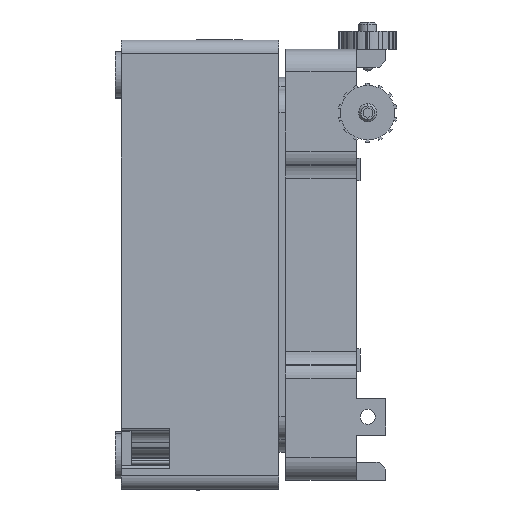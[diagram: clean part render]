
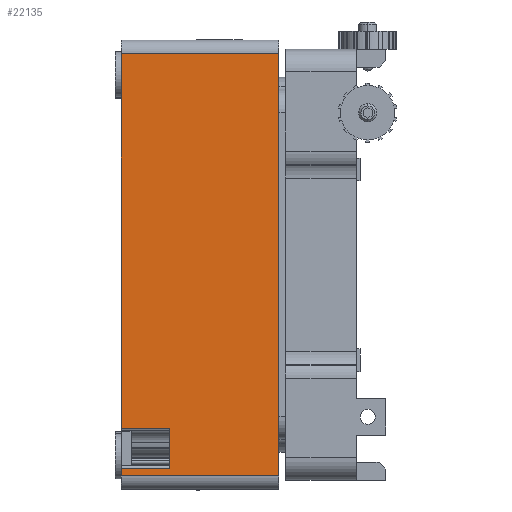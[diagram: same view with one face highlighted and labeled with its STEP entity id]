
A CAD part, left-side view. The second image highlights one B-rep face of the part: STEP entity #22135.
In plain terms, the highlighted planar face has unit normal (-1, 0, 0).
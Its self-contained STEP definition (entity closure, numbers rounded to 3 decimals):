
#538 = VERTEX_POINT ( 'NONE', #8801 ) ;
#1248 = EDGE_CURVE ( 'NONE', #46808, #26964, #15359, .T. ) ;
#2685 = EDGE_CURVE ( 'NONE', #25119, #26964, #42221, .T. ) ;
#4002 = ORIENTED_EDGE ( 'NONE', *, *, #1248, .T. ) ;
#4913 = CARTESIAN_POINT ( 'NONE',  ( -71., -34.7, -46.5 ) ) ;
#6540 = CARTESIAN_POINT ( 'NONE',  ( -71., 0., -36.071 ) ) ;
#7773 = VECTOR ( 'NONE', #14182, 1000. ) ;
#7884 = VECTOR ( 'NONE', #28069, 1000. ) ;
#8281 = LINE ( 'NONE', #32616, #21726 ) ;
#8399 = VECTOR ( 'NONE', #11824, 1000. ) ;
#8423 = VERTEX_POINT ( 'NONE', #13285 ) ;
#8801 = CARTESIAN_POINT ( 'NONE',  ( -71., 0., 46.5 ) ) ;
#9759 = VECTOR ( 'NONE', #29843, 1000. ) ;
#11055 = VECTOR ( 'NONE', #45674, 1000. ) ;
#11824 = DIRECTION ( 'NONE',  ( 0., 1., 0. ) ) ;
#13020 = LINE ( 'NONE', #21406, #46149 ) ;
#13285 = CARTESIAN_POINT ( 'NONE',  ( -71., -34.7, 46.5 ) ) ;
#14182 = DIRECTION ( 'NONE',  ( 0., 0., -1. ) ) ;
#14997 = EDGE_CURVE ( 'NONE', #8423, #45900, #27159, .T. ) ;
#15359 = LINE ( 'NONE', #35596, #25522 ) ;
#15644 = LINE ( 'NONE', #16167, #7884 ) ;
#16167 = CARTESIAN_POINT ( 'NONE',  ( -71., 0., -46.5 ) ) ;
#16818 = LINE ( 'NONE', #33247, #11055 ) ;
#17074 = ORIENTED_EDGE ( 'NONE', *, *, #14997, .F. ) ;
#17711 = ORIENTED_EDGE ( 'NONE', *, *, #36963, .F. ) ;
#17802 = VERTEX_POINT ( 'NONE', #42685 ) ;
#19911 = ORIENTED_EDGE ( 'NONE', *, *, #34762, .F. ) ;
#19956 = DIRECTION ( 'NONE',  ( 0., 1., 0. ) ) ;
#21406 = CARTESIAN_POINT ( 'NONE',  ( -71., -10.6, -36.571 ) ) ;
#21726 = VECTOR ( 'NONE', #45037, 1000. ) ;
#22135 = ADVANCED_FACE ( 'NONE', ( #39213 ), #43770, .F. ) ;
#23912 = ORIENTED_EDGE ( 'NONE', *, *, #29060, .T. ) ;
#24379 = DIRECTION ( 'NONE',  ( 0., 0., -1. ) ) ;
#24949 = ORIENTED_EDGE ( 'NONE', *, *, #34704, .T. ) ;
#25119 = VERTEX_POINT ( 'NONE', #50612 ) ;
#25522 = VECTOR ( 'NONE', #19956, 1000. ) ;
#26964 = VERTEX_POINT ( 'NONE', #51920 ) ;
#27159 = LINE ( 'NONE', #43064, #7773 ) ;
#28069 = DIRECTION ( 'NONE',  ( 0., 0., 1. ) ) ;
#28506 = EDGE_LOOP ( 'NONE', ( #19911, #23912, #17711, #4002, #41035, #24949, #17074, #31863 ) ) ;
#28761 = CARTESIAN_POINT ( 'NONE',  ( -71., 0., -46.5 ) ) ;
#28987 = DIRECTION ( 'NONE',  ( 0., 0., 1. ) ) ;
#29060 = EDGE_CURVE ( 'NONE', #35143, #17802, #16818, .T. ) ;
#29843 = DIRECTION ( 'NONE',  ( 0., 0., 1. ) ) ;
#31863 = ORIENTED_EDGE ( 'NONE', *, *, #42477, .T. ) ;
#32616 = CARTESIAN_POINT ( 'NONE',  ( -71., -2., -46.5 ) ) ;
#33247 = CARTESIAN_POINT ( 'NONE',  ( -71., -2., -36.071 ) ) ;
#34704 = EDGE_CURVE ( 'NONE', #25119, #45900, #8281, .T. ) ;
#34762 = EDGE_CURVE ( 'NONE', #35143, #538, #15644, .T. ) ;
#35143 = VERTEX_POINT ( 'NONE', #6540 ) ;
#35596 = CARTESIAN_POINT ( 'NONE',  ( -71., -2., -44.778 ) ) ;
#36963 = EDGE_CURVE ( 'NONE', #46808, #17802, #13020, .T. ) ;
#37004 = CARTESIAN_POINT ( 'NONE',  ( -71., -2., 49.5 ) ) ;
#39213 = FACE_OUTER_BOUND ( 'NONE', #28506, .T. ) ;
#39588 = CARTESIAN_POINT ( 'NONE',  ( -71., -10.6, -44.778 ) ) ;
#41035 = ORIENTED_EDGE ( 'NONE', *, *, #2685, .F. ) ;
#42221 = LINE ( 'NONE', #28761, #9759 ) ;
#42477 = EDGE_CURVE ( 'NONE', #8423, #538, #49136, .T. ) ;
#42685 = CARTESIAN_POINT ( 'NONE',  ( -71., -10.6, -36.071 ) ) ;
#43064 = CARTESIAN_POINT ( 'NONE',  ( -71., -34.7, 49.5 ) ) ;
#43770 = PLANE ( 'NONE',  #51460 ) ;
#45037 = DIRECTION ( 'NONE',  ( 0., -1., 0. ) ) ;
#45674 = DIRECTION ( 'NONE',  ( 0., -1., 0. ) ) ;
#45900 = VERTEX_POINT ( 'NONE', #4913 ) ;
#46149 = VECTOR ( 'NONE', #28987, 1000. ) ;
#46808 = VERTEX_POINT ( 'NONE', #39588 ) ;
#48858 = CARTESIAN_POINT ( 'NONE',  ( -71., -2., 46.5 ) ) ;
#49136 = LINE ( 'NONE', #48858, #8399 ) ;
#50612 = CARTESIAN_POINT ( 'NONE',  ( -71., 0., -46.5 ) ) ;
#51460 = AXIS2_PLACEMENT_3D ( 'NONE', #37004, #52972, #24379 ) ;
#51920 = CARTESIAN_POINT ( 'NONE',  ( -71., 0., -44.778 ) ) ;
#52972 = DIRECTION ( 'NONE',  ( 1., 0., 0. ) ) ;
